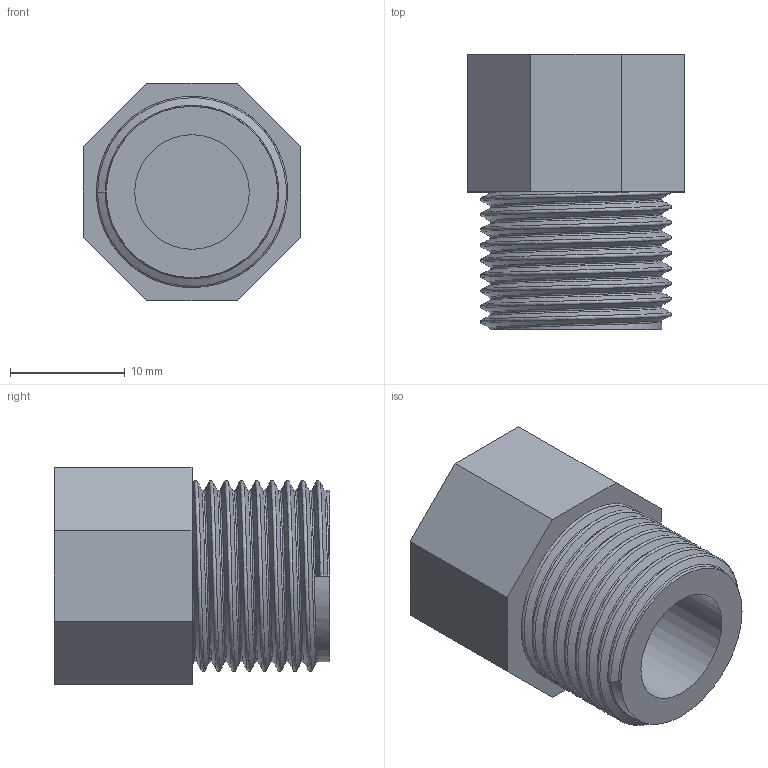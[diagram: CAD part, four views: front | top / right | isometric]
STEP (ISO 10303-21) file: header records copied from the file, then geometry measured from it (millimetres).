
FILE_DESCRIPTION(/* description */ ('PVC tappo filettato BSP maschio'),/* implementation_level */ '2;1');
FILE_NAME(/* name */ 'C:\Users\POLYPIPE\Desktop\DATASET INVENTOR\LIBRERIA EFFAST\RACCORDI 3DxWEB\RER\3D_RERTAE\3D_RERTAE016A.stp',/* time_stamp */ '2018-01-19T17:17:12+01:00',/* author */ ('POLYPIPE'),/* organization */ ('Polypipe Italia s.r.l.'),/* preprocessor_version */ 'ST-DEVELOPER v16.1',/* originating_system */ 'Autodesk Inventor 2016',/* authorisation */ '');
FILE_SCHEMA (('CONFIG_CONTROL_DESIGN'));
Length unit declared in the file: millimetre
Products named in the file (1): 3D_RERTAE
Bounding box: 19 x 24 x 19 mm (x, y, z)
Volume: 4991.1 mm3; surface area: 2704.6 mm2
Topology: 1 solids, 1 shells, 20 faces, 45 edges, 29 vertices
Faces by surface type: plane 13, bspline 5, cylinder 2
Full cylindrical faces by diameter (mm): 10 x1, 14.95 x1
Entity records: 4016 total; most frequent: CARTESIAN_POINT 3577, ORIENTED_EDGE 88, DIRECTION 71, EDGE_CURVE 44, VERTEX_POINT 29, LINE 27, VECTOR 27, EDGE_LOOP 23
